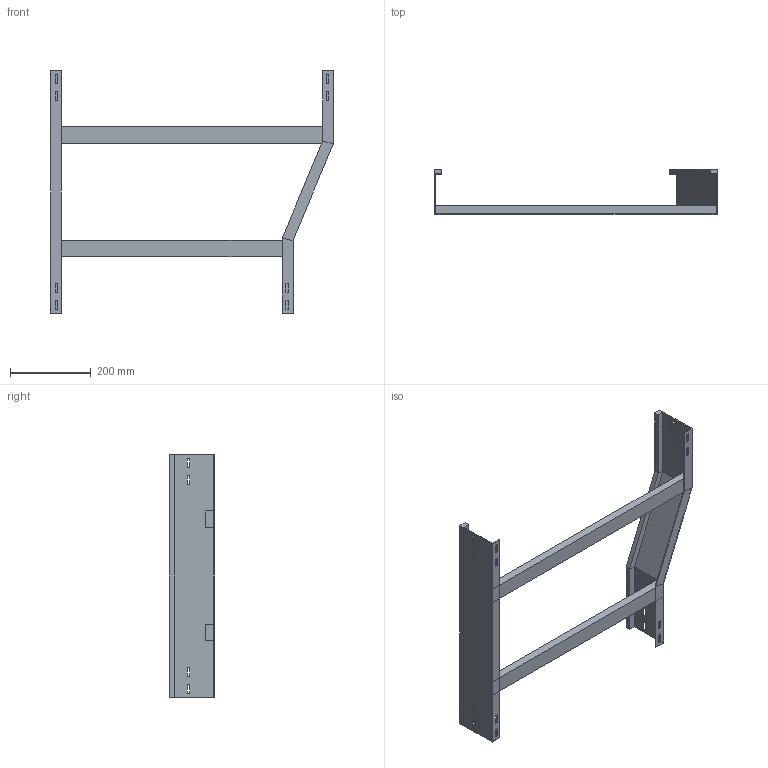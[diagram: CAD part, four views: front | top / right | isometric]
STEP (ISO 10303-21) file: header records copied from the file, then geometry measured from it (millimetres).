
FILE_DESCRIPTION (( 'STEP AP214' ), '1' );
FILE_NAME ('B2X22B6J700XX.step', '2025-09-02T17:19:58', ( '' ), ( '' ), 'SwSTEP 2.0', 'SolidWorks 2023', '' );
FILE_SCHEMA (( 'AUTOMOTIVE_DESIGN' ));
Length unit declared in the file: millimetre
Products named in the file (5): TRAVERSINO_700; TRAVERSINO_600; SPONDA DRITTA_H112.5; B2X22B6J700XX; SPONDA RID. SX 700-600_H112.5
Assembly tree (4 placements, depth 2):
  B2X22B6J700XX
    SPONDA DRITTA_H112.5
    TRAVERSINO_600
    TRAVERSINO_700
    SPONDA RID. SX 700-600_H112.5
Bounding box: 700 x 112.5 x 600 mm (x, y, z)
Volume: 1611332 mm3; surface area: 537788 mm2
Topology: 4 solids, 4 shells, 112 faces, 296 edges, 192 vertices
Faces by surface type: plane 112
Entity records: 3590 total; most frequent: CARTESIAN_POINT 607, ORIENTED_EDGE 592, DIRECTION 534, LINE 296, EDGE_CURVE 296, VECTOR 296, VERTEX_POINT 192, EDGE_LOOP 144
